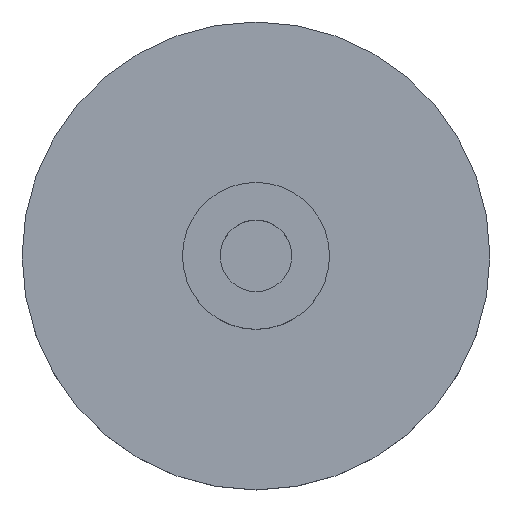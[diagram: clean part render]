
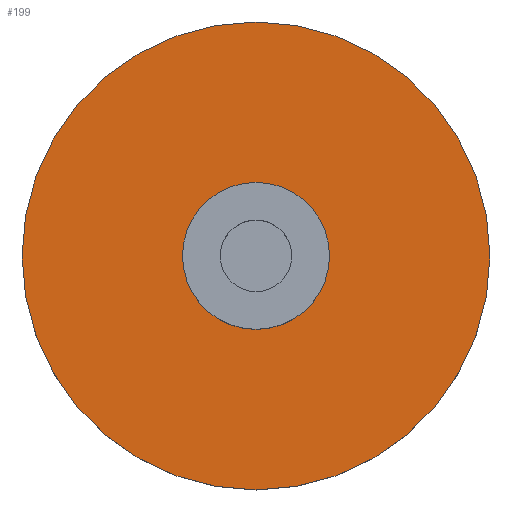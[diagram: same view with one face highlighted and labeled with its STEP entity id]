
A CAD part, top view. The second image highlights one B-rep face of the part: STEP entity #199.
In plain terms, the highlighted planar face has unit normal (0, 0, 1).
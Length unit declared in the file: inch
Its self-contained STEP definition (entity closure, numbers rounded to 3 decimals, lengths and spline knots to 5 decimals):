
#116=CARTESIAN_POINT('',(55.9613,10.29081,2.05191));
#117=VERTEX_POINT('',#116);
#118=CARTESIAN_POINT('',(55.6488,10.29081,2.05191));
#119=DIRECTION('',(0.0,0.0,-1.0));
#120=DIRECTION('',(1.0,0.0,0.0));
#121=AXIS2_PLACEMENT_3D('',#118,#119,#120);
#122=CIRCLE('',#121,0.3125);
#123=EDGE_CURVE('',#117,#117,#122,.T.);
#167=CARTESIAN_POINT('',(56.6438,10.29081,2.05191));
#168=VERTEX_POINT('',#167);
#169=CARTESIAN_POINT('',(55.6488,10.29081,2.05191));
#170=DIRECTION('',(0.0,0.0,1.0));
#171=DIRECTION('',(1.0,0.0,0.0));
#172=AXIS2_PLACEMENT_3D('',#169,#170,#171);
#173=CIRCLE('',#172,0.995);
#174=EDGE_CURVE('',#168,#168,#173,.T.);
#188=CARTESIAN_POINT('',(55.6488,10.29081,2.05191));
#189=DIRECTION('',(0.0,0.0,1.0));
#190=DIRECTION('',(1.0,0.0,0.0));
#191=AXIS2_PLACEMENT_3D('',#188,#189,#190);
#192=PLANE('',#191);
#193=ORIENTED_EDGE('',*,*,#174,.T.);
#194=EDGE_LOOP('',(#193));
#195=FACE_OUTER_BOUND('',#194,.T.);
#196=ORIENTED_EDGE('',*,*,#123,.T.);
#197=EDGE_LOOP('',(#196));
#198=FACE_BOUND('',#197,.T.);
#199=ADVANCED_FACE('',(#195,#198),#192,.T.);
